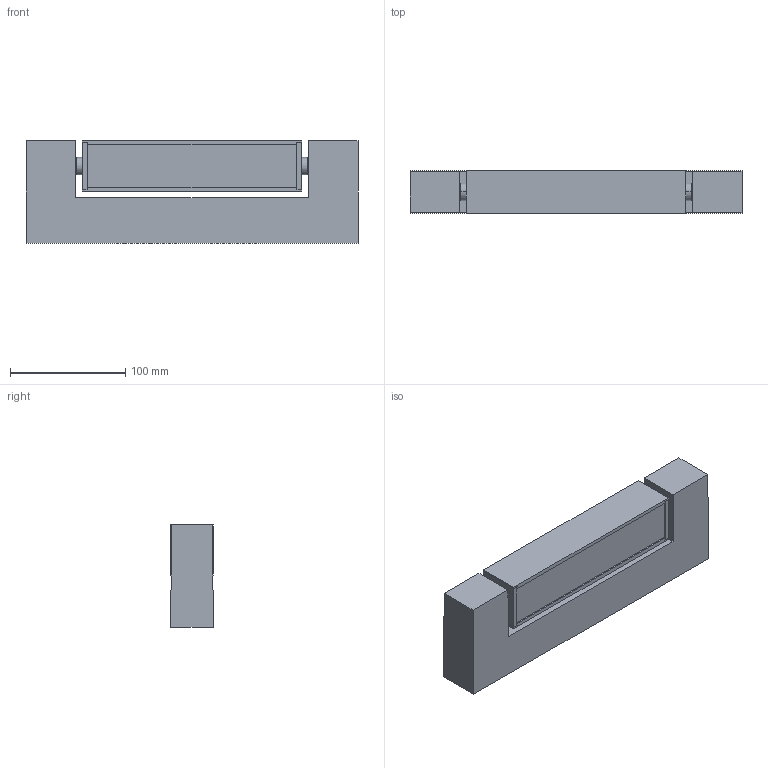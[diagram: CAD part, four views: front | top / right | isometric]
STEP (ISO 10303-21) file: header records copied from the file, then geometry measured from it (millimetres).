
FILE_DESCRIPTION (( 'STEP AP214' ), '1' );
FILE_NAME ('3D_ARA_WALL_29.STEP', '2018-03-12T10:09:40', ( 'Utente' ), ( '' ), 'SwSTEP 2.0', 'SolidWorks 2016', '' );
FILE_SCHEMA (( 'AUTOMOTIVE_DESIGN' ));
Length unit declared in the file: millimetre
Products named in the file (4): 051ARA8C0800_CORPO ARA GRmarti-1^3D_ARA_WALL_29; Group2^3D_ARA_WALL_29; Group1^3D_ARA_WALL_29; 3D_ARA_WALL_29
Assembly tree (3 placements, depth 2):
  3D_ARA_WALL_29
    Group1^3D_ARA_WALL_29
    Group2^3D_ARA_WALL_29
    051ARA8C0800_CORPO ARA GRmarti-1^3D_ARA_WALL_29
Bounding box: 288 x 37.15 x 89 mm (x, y, z)
Volume: 667293.1 mm3; surface area: 134579.3 mm2
Topology: 4 solids, 4 shells, 123 faces, 327 edges, 214 vertices
Faces by surface type: plane 101, cylinder 22
Entity records: 4338 total; most frequent: CARTESIAN_POINT 688, ORIENTED_EDGE 654, DIRECTION 629, EDGE_CURVE 327, VECTOR 271, LINE 271, VERTEX_POINT 214, AXIS2_PLACEMENT_3D 179
